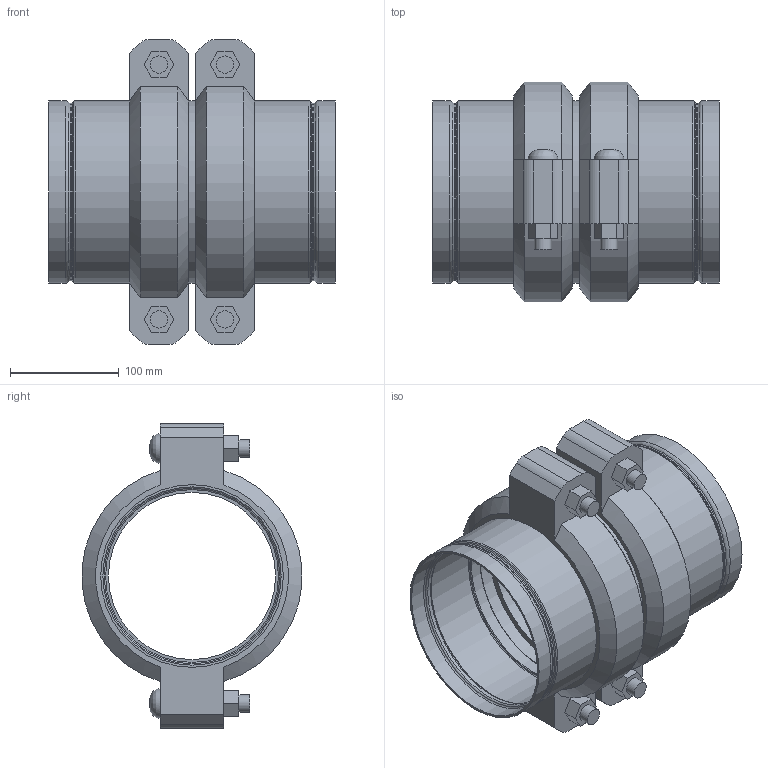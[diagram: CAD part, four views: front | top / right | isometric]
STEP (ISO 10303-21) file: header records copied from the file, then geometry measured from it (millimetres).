
FILE_DESCRIPTION(/* description */ ('VIC STRENGTHIN 100 EXPANSION JOINT 2 COUPLINGS COMPRESSED STYLE E155 (ST1)','CAx-IF Rec.Pracs.---Representation and Presentation of Product Manufacturing Information (PMI)---4.0---2014-10-13'),/* implementation_level */ '2;1');
FILE_NAME(/* name */ 'C:\Users\Vjadhav\AppData\Roaming\Autodesk\ApplicationPlugins\Victaulic.Temp\A523\Victaulic_SS-StrengThin 100_Expansion Joint_Compressed_2 Couplings_Style E155 (ST1)_6 (150).stp',/* time_stamp */ '2021-07-23T12:29:19+06:00',/* author */ ('kkamble'),/* organization */ ('Victaulic'),/* preprocessor_version */ 'ST-DEVELOPER v17.2',/* originating_system */ 'Autodesk Inventor 2019',/* authorisation */ '');
FILE_SCHEMA (('AP242_MANAGED_MODEL_BASED_3D_ENGINEERING_MIM_LF { 1 0 10303 442 1 1 4 }'));
Length unit declared in the file: inch
Products named in the file (4): E155-06.0; E494G-06.0; Nipple-06.0; 075-06.0
Assembly tree (5 placements, depth 2):
  E155-06.0
    E494G-06.0  x2
    Nipple-06.0
    075-06.0  x2
Bounding box: 264.41 x 202.46 x 281.18 mm (x, y, z)
Volume: 1923531.7 mm3; surface area: 518673.9 mm2
Topology: 5 solids, 9 shells, 186 faces, 506 edges, 362 vertices
Faces by surface type: plane 86, cylinder 52, torus 32, cone 12, bspline 4
Full cylindrical faces by diameter (mm): 15.875 x8, 17.424 x4, 154.051 x1, 159.258 x2, 159.944 x2, 163.271 x2, 163.957 x4, 164.262 x6, 168.275 x11
Entity records: 3599 total; most frequent: CARTESIAN_POINT 637, DIRECTION 635, ORIENTED_EDGE 536, AXIS2_PLACEMENT_3D 269, EDGE_CURVE 268, VERTEX_POINT 193, CIRCLE 163, EDGE_LOOP 123
